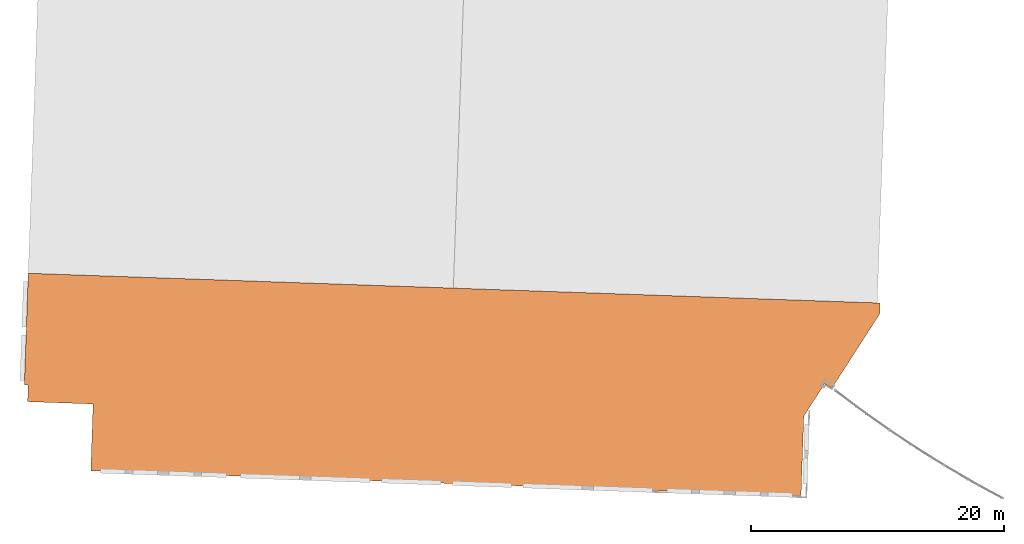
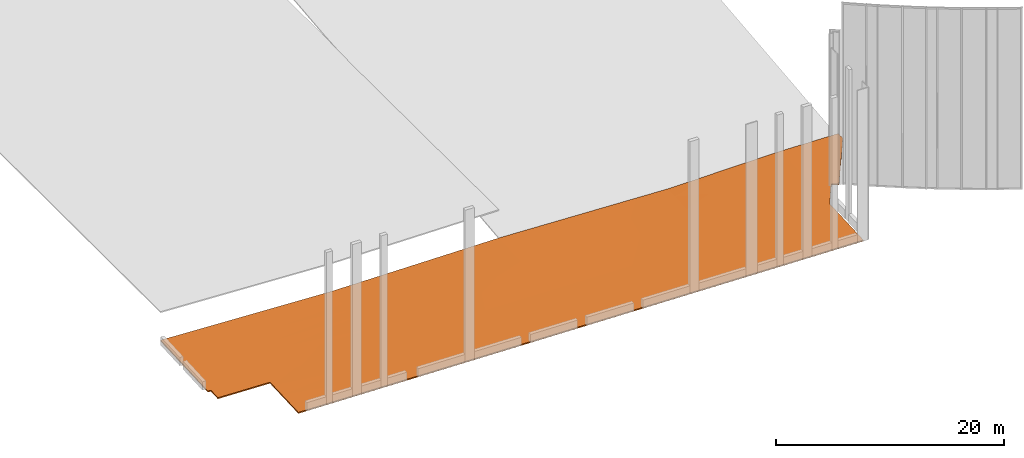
# One storey, part 17 of 17: 1 proxy.
"""IFC2X3 building model written with IfcOpenShell, lengths in feet."""

from ifc_helpers import new_model, entity, si_unit, converted_unit, derived_unit, direction, frame, origin, place, context, subcontext, project, spatial, faceted_brep, source, transform, mapped, material, type_object, type_shapes, element, save


model = new_model("IFC2X3")

# Units and contexts
model_context = context("Model", 3, precision=0.0001, world=origin(), true_north=direction((0.999390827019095, 0.0348994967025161)))
body_context = subcontext(model_context, "Body", "Model", "MODEL_VIEW")
ifc_project = project(units=[converted_unit("LENGTHUNIT", "FOOT", entity("IfcRatioMeasure", 0.3048), si_unit("LENGTHUNIT", "METRE"), dimensions=[1, 0, 0, 0, 0, 0, 0]), converted_unit("AREAUNIT", "SQUARE FOOT", entity("IfcRatioMeasure", 0.09290304), si_unit("AREAUNIT", "SQUARE_METRE"), dimensions=[2, 0, 0, 0, 0, 0, 0]), converted_unit("VOLUMEUNIT", "CUBIC FOOT", entity("IfcRatioMeasure", 0.028316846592), si_unit("VOLUMEUNIT", "CUBIC_METRE"), dimensions=[3, 0, 0, 0, 0, 0, 0]), converted_unit("PLANEANGLEUNIT", "DEGREE", entity("IfcRatioMeasure", 0.0174532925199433), si_unit("PLANEANGLEUNIT", "RADIAN"), dimensions=[0, 0, 0, 0, 0, 0, 0]), si_unit("MASSUNIT", "GRAM", prefix="KILO"), si_unit("TIMEUNIT", "SECOND"), si_unit("FREQUENCYUNIT", "HERTZ"), si_unit("THERMODYNAMICTEMPERATUREUNIT", "DEGREE_CELSIUS"), derived_unit("THERMALTRANSMITTANCEUNIT", [(si_unit("MASSUNIT", "GRAM", prefix="KILO"), 1), (si_unit("THERMODYNAMICTEMPERATUREUNIT", "KELVIN"), -1), (si_unit("TIMEUNIT", "SECOND"), -3)]), derived_unit("VOLUMETRICFLOWRATEUNIT", [(si_unit("LENGTHUNIT", "METRE"), 3), (si_unit("TIMEUNIT", "SECOND"), -1)]), si_unit("ELECTRICCURRENTUNIT", "AMPERE"), si_unit("ELECTRICVOLTAGEUNIT", "VOLT"), si_unit("POWERUNIT", "WATT"), si_unit("FORCEUNIT", "NEWTON"), si_unit("ILLUMINANCEUNIT", "LUX"), si_unit("LUMINOUSFLUXUNIT", "LUMEN"), si_unit("LUMINOUSINTENSITYUNIT", "CANDELA"), derived_unit("USERDEFINED", [(si_unit("MASSUNIT", "GRAM", prefix="KILO"), -1), (si_unit("LENGTHUNIT", "METRE"), -2), (si_unit("TIMEUNIT", "SECOND"), 3), (si_unit("LUMINOUSFLUXUNIT", "LUMEN"), 1)]), derived_unit("LINEARVELOCITYUNIT", [(si_unit("LENGTHUNIT", "METRE"), 1), (si_unit("TIMEUNIT", "SECOND"), -1)]), si_unit("PRESSUREUNIT", "PASCAL"), derived_unit("USERDEFINED", [(si_unit("LENGTHUNIT", "METRE"), -2), (si_unit("MASSUNIT", "GRAM", prefix="KILO"), 1), (si_unit("TIMEUNIT", "SECOND"), -2)])], contexts=[model_context])

# Site, building, storey
site_placement = place(None, frame((892.518771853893, 322.38689265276, 0.00393700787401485), z_axis=(0.0, 0.0, 1.0), x_axis=(0.0348994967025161, 0.999390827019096, 0.0)))
site = spatial("IfcSite", under=ifc_project, at=site_placement, Name="Default", CompositionType="ELEMENT")
building_placement = place(site_placement, origin())
building = spatial("IfcBuilding", under=site, at=building_placement, CompositionType="ELEMENT")
storey_placement = place(building_placement, frame((0.0, 0.0, 557.0)))
storey = spatial("IfcBuildingStorey", under=building, at=storey_placement, Name="Existing Garage - 1st Level", CompositionType="ELEMENT", Elevation=557.0)

# Proxy
ifc_material = material(Name="Conc Slab")
building_element_proxy_type = type_object("IfcBuildingElementProxyType", Name="URMC Exist Garage A1-G4 1st Floor", PredefinedType="NOTDEFINED", material=ifc_material)
shared_shape = source(origin(), body_context, "Body", "Brep", [
    faceted_brep([(-20.0, -55.0, -0.41666666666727), (-10.0, -55.0, -0.651666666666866), (-5.0, -55.0, -0.769166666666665), (0.0, -55.0, -0.886666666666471), (7.5000000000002, -55.0, -1.06166666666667), (15.0, -55.0, -1.23666666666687), (22.1905010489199, -55.0, -1.40444502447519), (26.09525052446, -55.0, -1.49555584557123), (30.0, -55.0, -1.58666666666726), (30.0, -55.0, -1.1700000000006), (22.8094989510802, -55.0, -1.00222164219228), (18.9047494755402, -55.0, -0.911110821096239), (15.0, -55.0, -0.8200000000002), (7.5000000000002, -55.0, -0.645000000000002), (0.0, -55.0, -0.469999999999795), (-10.0, -55.0, -0.235000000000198), (-13.9877755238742, -55.0, -0.141287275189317), (-20.0, -55.0, 0.0), (-20.6666666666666, -55.0, 0.0), (-20.6666666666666, -55.0, -0.416666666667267), (30.0, 0.333333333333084, -0.416666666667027), (22.8094991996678, 0.333333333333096, -0.416666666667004), (18.904749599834, 0.333333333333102, -0.416666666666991), (15.0, 0.333333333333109, -0.416666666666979), (8.80986514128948, 0.333333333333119, -0.416666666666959), (4.90493257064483, 0.333333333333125, -0.416666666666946), (1.0, 0.333333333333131, -0.416666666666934), (1.0, 0.333333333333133, 0.0), (4.90493259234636, 0.333333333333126, 0.0), (8.80986518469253, 0.33333333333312, 0.0), (15.0, 0.33333333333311, 0.0), (22.1905008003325, 0.333333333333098, 0.0), (26.0952504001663, 0.333333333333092, 0.0), (30.0, 0.333333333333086, 0.0), (-20.6666666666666, -17.6666666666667, 0.0), (-20.6666666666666, -17.6666666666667, -0.416666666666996), (-20.0, -17.6666666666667, -0.416666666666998), (-20.0, -34.3004878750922, -0.416666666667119), (-12.5740740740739, -17.6666666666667, -0.473434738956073), (-10.7175925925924, -17.6666666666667, -0.487626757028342), (-8.86111111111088, -17.6666666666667, -0.501818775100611), (-11.6458347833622, -36.5226943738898, -0.547431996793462), (-16.2870370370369, -17.6666666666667, -0.445050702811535), (-14.4305555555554, -17.6666666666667, -0.459242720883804), (-3.29166666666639, -17.6666666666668, -0.544394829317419), (0.0, -14.250000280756, -0.540537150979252), (0.0, -15.0715290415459, -0.547515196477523), (0.0, -27.8333333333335, -0.6559136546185), (-3.29166666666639, -13.888888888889, -0.517587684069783), (-3.29166666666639, -12.0, -0.504184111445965), (-3.29166666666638, -10.1111111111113, -0.490780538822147), (-3.29166666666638, -8.22222222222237, -0.477376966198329), (-3.29166666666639, -15.7777777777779, -0.530991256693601), (-5.14814814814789, -17.6666666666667, -0.530202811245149), (-5.59903228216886, -34.4748037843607, -0.629555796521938), (-7.00462962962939, -17.6666666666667, -0.51601079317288), (-18.1435185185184, -17.6666666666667, -0.430858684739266), (0.0, -29.476391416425, -0.669869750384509), (-3.29166666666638, -4.44444444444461, -0.450569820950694), (-3.29166666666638, -2.55555555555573, -0.437166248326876), (-3.29166666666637, -0.666666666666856, -0.423762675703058), (-2.92592592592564, -0.666666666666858, -0.423918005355), (-2.56018518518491, -0.666666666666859, -0.424073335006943), (-2.19444444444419, -0.66666666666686, -0.424228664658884), (-1.82870370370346, -0.666666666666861, -0.424383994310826), (-1.46296296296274, -0.666666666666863, -0.424539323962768), (-1.09722222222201, -0.666666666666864, -0.42469465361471), (-0.731481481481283, -0.666666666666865, -0.424849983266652), (-3.29166666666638, -6.33333333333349, -0.463973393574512), (-0.365740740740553, -0.666666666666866, -0.425005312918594), (0.0, -0.666666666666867, -0.425160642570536), (-0.365740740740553, -0.666666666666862, -0.00833864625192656), (-0.731481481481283, -0.666666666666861, -0.00818331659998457), (0.0, -14.2500000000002, -0.12387048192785), (0.0, -0.666666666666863, -0.00849397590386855), (-3.29166666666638, -8.22222222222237, -0.0607102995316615), (-3.29166666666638, -6.33333333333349, -0.0473067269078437), (-1.09722222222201, -0.66666666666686, -0.00802798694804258), (-1.46296296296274, -0.666666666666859, -0.00787265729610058), (-1.82870370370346, -0.666666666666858, -0.0077173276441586), (-2.19444444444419, -0.666666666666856, -0.00756199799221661), (-2.56018518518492, -0.666666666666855, -0.00740666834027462), (-2.92592592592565, -0.666666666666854, -0.00725133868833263), (-3.29166666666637, -0.666666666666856, -0.00709600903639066), (-3.29166666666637, -2.55555555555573, -0.0204995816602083), (-3.29166666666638, -4.44444444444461, -0.033903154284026), (-13.9378433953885, -34.3833515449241, -0.0893812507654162), (-20.0, -34.3004875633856, 0.0), (-12.5740740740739, -17.6666666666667, -0.0567680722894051), (-14.4305555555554, -17.6666666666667, -0.042576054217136), (-16.2870370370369, -17.6666666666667, -0.0283840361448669), (-10.7175925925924, -17.6666666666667, -0.0709600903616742), (-3.29166666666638, -10.1111111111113, -0.0741138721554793), (-3.29166666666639, -12.0, -0.0875174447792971), (-3.29166666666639, -13.888888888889, -0.100921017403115), (-3.29166666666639, -15.7777777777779, -0.114324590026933), (-3.2916666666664, -17.6666666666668, -0.127728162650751), (-7.93286850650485, -36.6830543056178, -0.189705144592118), (0.0, -29.4763908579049, -0.253203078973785), (0.0, -27.8333333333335, -0.239246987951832), (-5.14814814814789, -17.6666666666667, -0.113536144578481), (0.0, -15.0715287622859, -0.130848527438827), (-7.00462962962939, -17.6666666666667, -0.0993441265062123), (-8.86111111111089, -17.6666666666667, -0.0851521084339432), (-18.1435185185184, -17.6666666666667, -0.0141920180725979), (-20.0, -17.6666666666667, 0.0), (0.250000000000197, -0.666666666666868, -0.00859939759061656), (0.500000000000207, -0.666666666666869, -0.0087048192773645), (0.750000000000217, -0.66666666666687, -0.00881024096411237), (1.0, -0.66666666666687, -0.00891566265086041), (1.0, -0.66666666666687, -0.425582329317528), (0.750000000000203, -0.66666666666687, -0.42547690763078), (0.500000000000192, -0.666666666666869, -0.425371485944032), (0.250000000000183, -0.666666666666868, -0.425266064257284), (1.0, -0.166666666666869, -0.421124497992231), (1.0, -0.41666666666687, -0.42335341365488), (1.0, -0.416666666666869, -0.00668674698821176), (1.0, -0.166666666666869, -0.0044578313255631), (1.0, 0.0833333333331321, -0.00222891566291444), (1.0, 0.0833333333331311, -0.418895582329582), (11.1962408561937, -15.6577053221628, -0.627992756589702), (10.7739407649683, -31.7992304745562, -0.83558545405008), (15.0, -27.3333333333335, -0.826666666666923), (15.0, -40.5958125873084, -1.02320702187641), (6.85739956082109, -24.4344512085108, -0.698664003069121), (7.21404979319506, -39.7071127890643, -0.878575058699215), (15.0, -26.1916251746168, -0.809747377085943), (20.251104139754, -19.1054514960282, -0.747779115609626), (25.1652703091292, -15.8962002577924, -0.726745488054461), (30.0, -14.0708535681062, -0.721237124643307), (30.0, -28.4750404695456, -1.02580758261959), (24.1428761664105, -33.9154324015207, -1.0562523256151), (19.0029258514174, -39.2111456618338, -1.06943757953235), (30.0, -26.1916251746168, -0.560859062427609), (30.0, -40.5958125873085, -0.865429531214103), (24.7488958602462, -19.1054514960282, -0.367981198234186), (19.834729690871, -15.8962002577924, -0.273597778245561), (15.0, -14.0708535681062, -0.213459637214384), (15.0, -27.3333333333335, -0.410000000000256), (15.0, -28.4750404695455, -0.426919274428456), (20.8571238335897, -33.9154324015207, -0.592132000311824), (25.9970741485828, -39.2111456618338, -0.769401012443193), (7.21404852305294, -39.7071122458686, -0.461908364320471), (6.85739830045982, -24.4344495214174, -0.281997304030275), (11.1962404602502, -15.6577081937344, -0.211326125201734), (10.773940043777, -31.7992331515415, -0.418918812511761)], [[[0, 1, 2, 3, 4, 5, 6, 7, 8, 9, 10, 11, 12, 13, 14, 15, 16, 17, 18, 19]], [[20, 21, 22, 23, 24, 25, 26, 27, 28, 29, 30, 31, 32, 33]], [[18, 34, 35, 19]], [[19, 35, 36, 37, 0]], [[38, 39, 40, 41, 42, 43]], [[44, 45, 46, 47]], [[48, 49, 50, 51, 45, 44, 52]], [[53, 44, 54, 40, 55]], [[0, 37, 41]], [[37, 36, 56, 42]], [[41, 54, 1]], [[1, 54, 3, 2]], [[54, 47, 57, 3]], [[41, 37, 42]], [[0, 41, 1]], [[40, 54, 41]], [[44, 47, 54]], [[58, 59, 60, 61, 62, 63, 64, 65, 66, 67, 51, 68]], [[69, 70, 45, 67]], [[67, 45, 51]], [[71, 72, 73, 74]], [[75, 73, 72]], [[76, 75, 72, 77, 78, 79, 80, 81, 82, 83, 84, 85]], [[16, 86, 87]], [[88, 89, 90, 86, 91]], [[92, 93, 94, 95, 96, 73, 75]], [[97, 14, 98, 99]], [[86, 90, 87]], [[100, 99, 101, 73, 96]], [[100, 102, 103, 91, 97]], [[100, 97, 99]], [[86, 97, 91]], [[104, 105, 87, 90]], [[87, 17, 16]], [[86, 15, 97]], [[15, 86, 16]], [[14, 97, 15]], [[18, 17, 87, 105, 34]], [[93, 92, 75, 76, 85, 84, 83, 60, 59, 58, 68, 51, 50, 49, 48, 52, 44, 96, 95, 94]], [[62, 61, 60, 83, 82, 81, 80, 79, 78, 77, 72, 71, 74, 106, 107, 108, 109, 110, 111, 112, 113, 70, 69, 67, 66, 65, 64, 63]], [[114, 115, 110, 109, 116, 117, 118, 27, 26, 119]], [[36, 35, 34, 105, 104, 90, 89, 88, 91, 103, 102, 100, 96, 44, 53, 55, 40, 39, 38, 43, 42, 56]], [[23, 120, 24]], [[121, 122, 123, 5]], [[4, 121, 5]], [[110, 46, 45, 70, 113, 112, 111]], [[24, 120, 124]], [[110, 25, 46]], [[124, 46, 25]], [[125, 124, 121]], [[120, 23, 126, 122]], [[119, 26, 25, 110, 115, 114]], [[124, 25, 24]], [[57, 124, 125]], [[124, 57, 47, 46]], [[125, 3, 57]], [[121, 120, 122]], [[121, 124, 120]], [[121, 4, 125]], [[125, 4, 3]], [[127, 23, 22, 21]], [[128, 20, 129, 130]], [[6, 131, 7]], [[6, 132, 131]], [[132, 5, 123, 122, 126]], [[127, 128, 131]], [[130, 7, 131]], [[130, 8, 7]], [[131, 132, 127]], [[5, 132, 6]], [[127, 132, 126]], [[128, 127, 21]], [[20, 128, 21]], [[130, 131, 128]], [[23, 127, 126]], [[9, 8, 130, 129, 20, 33, 133, 134]], [[135, 33, 32, 31]], [[136, 30, 137, 138, 139]], [[10, 140, 11]], [[10, 141, 140]], [[141, 9, 134, 133]], [[135, 136, 140]], [[139, 11, 140]], [[139, 12, 11]], [[140, 141, 135]], [[9, 141, 10]], [[135, 141, 133]], [[136, 135, 31]], [[30, 136, 31]], [[139, 140, 136]], [[33, 135, 133]], [[142, 98, 14]], [[108, 107, 106, 74, 73, 101, 109]], [[143, 28, 101]], [[138, 144, 145]], [[117, 116, 109, 28, 27, 118]], [[29, 28, 143]], [[12, 145, 13]], [[145, 144, 143]], [[144, 138, 137, 30]], [[142, 14, 13]], [[144, 29, 143]], [[109, 101, 28]], [[143, 101, 99, 98]], [[145, 12, 139, 138]], [[143, 142, 145]], [[29, 144, 30]], [[98, 142, 143]], [[13, 145, 142]]]),
    faceted_brep([(30.0, -202.0, 0.0), (0.0, -202.0, 0.0), (8.58968833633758, -207.120278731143, 0.0), (7.46506598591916, -209.006925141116, 0.0), (27.1650390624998, -220.75, 0.0), (30.0, -220.75, 0.0), (30.0, -202.0, -0.416666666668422), (30.0, -220.75, -0.416666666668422), (27.1650390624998, -220.75, -0.416666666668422), (7.46506598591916, -209.006925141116, -0.416666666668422), (8.58968833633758, -207.120278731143, -0.416666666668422), (0.0, -202.0, -0.416666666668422)], [[[0, 1, 2, 3, 4, 5]], [[6, 7, 8, 9, 10, 11]], [[1, 0, 6, 11]], [[2, 1, 11, 10]], [[3, 2, 10, 9]], [[4, 3, 9, 8]], [[5, 4, 8, 7]], [[0, 5, 7, 6]]]),
    faceted_brep([(-20.6666666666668, -165.0, 0.0), (-20.0, -165.0, 0.0), (-13.6761632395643, -165.0, -0.148610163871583), (-7.35232647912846, -165.0, -0.297220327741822), (0.0, -165.0, -0.47000000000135), (9.0037052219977, -165.0, -0.680086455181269), (18.0074104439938, -165.0, -0.890172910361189), (25.4981473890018, -165.0, -1.06495677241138), (30.0, -165.0, -1.17000000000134), (30.0, -165.0, -1.58666666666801), (20.9962947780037, -165.0, -1.37658021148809), (11.9925895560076, -165.0, -1.16649375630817), (4.50185261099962, -165.0, -0.991709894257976), (0.0, -165.0, -0.886666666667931), (-6.32383676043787, -165.0, -0.738056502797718), (-12.6476735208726, -165.0, -0.589446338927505), (-20.0, -165.0, -0.416666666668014), (-20.6666666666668, -165.0, -0.416666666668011), (-20.6666666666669, -202.0, -0.41666666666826), (-20.0, -202.0, -0.416666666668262), (-12.6476733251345, -202.0, -0.416666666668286), (-6.32383666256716, -202.0, -0.416666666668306), (0.0, -202.0, -0.416666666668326), (9.00370527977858, -202.0, -0.416666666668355), (15.0, -202.0, -0.416666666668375), (20.9962947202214, -202.0, -0.416666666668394), (30.0, -202.0, -0.416666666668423), (30.0, -202.0, 0.0), (20.9962947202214, -202.0, 0.0), (15.0, -202.0, 0.0), (9.00370527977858, -202.0, 0.0), (0.0, -202.0, 0.0), (-7.35232667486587, -202.0, 0.0), (-13.676163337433, -202.0, 0.0), (-20.0, -202.0, 0.0), (-20.6666666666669, -202.0, 0.0), (-20.0, -183.5, 0.0), (0.0, -188.398195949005, -0.172779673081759), (-9.99999899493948, -183.499998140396, -0.117500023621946), (0.0, -178.601803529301, -0.297220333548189), (0.0, -183.5, -0.235000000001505), (0.0, -174.25, -0.352500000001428), (0.0, -181.656853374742, -0.675079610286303), (0.0, -183.5, -0.651666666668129), (-20.0, -178.601804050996, -0.416666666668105), (-20.0, -188.398195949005, -0.416666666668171), (-10.0000010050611, -183.499998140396, -0.53416666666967), (0.0, -191.828426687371, -0.545873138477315), (17.9981488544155, -183.915731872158, -0.434978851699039), (21.7527798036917, -174.464150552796, -0.727515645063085), (16.3929501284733, -174.455166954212, -0.634649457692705), (5.45135066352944, -176.072640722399, -0.41848031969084), (24.1185436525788, -184.958768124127, -0.47566500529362), (30.0, -181.656853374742, -0.643283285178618), (10.9233067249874, -174.475221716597, -0.539245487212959), (30.0, -191.828426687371, -0.321641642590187), (8.99746617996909, -183.946109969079, -0.331772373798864), (30.0, -183.5, -1.00166666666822), (30.0, -174.25, -1.29416666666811), (12.0018511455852, -183.915731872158, -0.783260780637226), (8.24722019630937, -174.464150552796, -0.909658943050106), (13.6070498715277, -174.455166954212, -1.0029233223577), (24.5486493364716, -176.072640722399, -1.14739902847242), (5.88145634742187, -184.958768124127, -0.696342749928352), (19.0766932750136, -174.475221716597, -1.09743837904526), (21.0025338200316, -183.946109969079, -0.885120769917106)], [[[0, 1, 2, 3, 4, 5, 6, 7, 8, 9, 10, 11, 12, 13, 14, 15, 16, 17]], [[18, 19, 20, 21, 22, 23, 24, 25, 26, 27, 28, 29, 30, 31, 32, 33, 34, 35]], [[2, 1, 36]], [[32, 31, 37]], [[38, 39, 3]], [[38, 32, 37]], [[38, 37, 40, 39]], [[36, 33, 38]], [[3, 39, 41, 4]], [[2, 36, 38]], [[38, 3, 2]], [[38, 33, 32]], [[36, 1, 0, 35, 34, 33]], [[14, 13, 42, 43]], [[20, 19, 18, 17, 16, 44, 45]], [[46, 44, 15]], [[46, 20, 45]], [[44, 46, 45]], [[43, 21, 46]], [[44, 16, 15]], [[14, 43, 46]], [[46, 15, 14]], [[46, 21, 20]], [[21, 43, 47, 23, 22]], [[17, 18, 35, 0]], [[28, 48, 29]], [[49, 6, 50]], [[51, 4, 41, 39, 40]], [[49, 52, 53]], [[6, 49, 7]], [[54, 50, 6]], [[28, 55, 52]], [[50, 54, 48]], [[31, 30, 29, 56]], [[56, 29, 48]], [[50, 48, 49]], [[53, 8, 7]], [[52, 49, 48]], [[53, 7, 49]], [[48, 28, 52]], [[5, 54, 6]], [[55, 28, 27]], [[55, 53, 52]], [[56, 54, 51]], [[56, 40, 37, 31]], [[51, 40, 56]], [[48, 54, 56]], [[51, 5, 4]], [[5, 51, 54]], [[26, 57, 58, 9, 8, 53, 55, 27]], [[23, 59, 24]], [[60, 11, 61]], [[62, 9, 58, 57]], [[60, 63, 42]], [[11, 60, 12]], [[64, 61, 11]], [[23, 47, 63]], [[61, 64, 59]], [[26, 25, 24, 65]], [[65, 24, 59]], [[61, 59, 60]], [[42, 13, 12]], [[63, 60, 59]], [[42, 12, 60]], [[59, 23, 63]], [[10, 64, 11]], [[63, 47, 43, 42]], [[65, 64, 62]], [[26, 65, 57]], [[62, 57, 65]], [[59, 64, 65]], [[62, 10, 9]], [[10, 62, 64]]]),
    faceted_brep([(-20.6666666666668, -165.0, 0.0), (-20.6666666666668, -165.0, -0.416666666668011), (-20.0, -165.0, -0.416666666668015), (0.0, -165.0, -0.886666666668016), (15.0, -165.0, -1.23666666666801), (30.0, -165.0, -1.58666666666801), (30.0, -165.0, -1.17000000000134), (15.0, -165.0, -0.820000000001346), (0.0, -165.0, -0.470000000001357), (-20.0, -165.0, 0.0), (-20.6666666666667, -110.0, -0.416666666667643), (-20.6666666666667, -110.0, 0.0), (-20.0, -110.0, 0.0), (0.0, -110.0, -0.470000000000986), (13.3825266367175, -110.0, -0.407548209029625), (21.6912633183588, -110.0, -0.368774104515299), (30.0, -110.0, -0.330000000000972), (30.0, -110.0, -0.746666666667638), (16.6174733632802, -110.0, -0.809118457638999), (8.30873668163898, -110.0, -0.847892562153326), (0.0, -110.0, -0.886666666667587), (-20.0, -110.0, -0.416666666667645), (0.0, -120.155122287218, -0.88666666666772), (0.0, -130.310244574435, -0.886666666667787), (0.0, -144.689755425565, -0.886666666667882), (0.0, -154.844877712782, -0.886666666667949), (0.0, -151.25, -0.470000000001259), (0.0, -137.5, -0.470000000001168), (0.0, -120.1551222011, -0.470000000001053), (17.2873447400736, -147.002653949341, -1.13164646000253), (30.0, -151.25, -1.37666666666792), (30.0, -137.5, -1.16666666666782), (16.3240091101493, -128.827558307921, -0.966952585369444), (30.0, -120.1551222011, -0.901763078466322), (13.2726015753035, -119.339312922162, -0.887833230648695), (8.02165536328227, -127.260649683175, -0.919720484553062), (8.64423343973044, -137.500002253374, -0.967346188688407), (21.6843579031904, -118.27528224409, -0.876826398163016), (8.41142000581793, -148.439377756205, -1.01201761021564), (30.0, -120.155122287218, -0.485096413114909), (30.0, -130.310244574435, -0.640192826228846), (30.0, -144.689755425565, -0.859807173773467), (30.0, -154.844877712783, -1.0149035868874), (12.7126552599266, -147.002653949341, -0.650151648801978), (13.6759908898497, -128.827558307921, -0.537262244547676), (16.7273984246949, -119.339312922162, -0.471470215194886), (21.9783446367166, -127.260649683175, -0.560563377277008), (21.3557665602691, -137.500002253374, -0.669320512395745), (8.31564209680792, -118.27528224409, -0.466226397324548), (21.5885799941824, -148.439377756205, -0.791723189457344)], [[[0, 1, 2, 3, 4, 5, 6, 7, 8, 9]], [[10, 11, 12, 13, 14, 15, 16, 17, 18, 19, 20, 21]], [[0, 11, 10, 1]], [[1, 10, 21, 2]], [[2, 21, 20, 22, 23, 24, 25, 3]], [[9, 8, 26, 27, 28, 13, 12]], [[9, 12, 11, 0]], [[4, 29, 30]], [[31, 32, 33]], [[34, 35, 22]], [[30, 5, 4]], [[35, 36, 23]], [[17, 33, 37]], [[32, 34, 37]], [[32, 36, 35]], [[29, 32, 31]], [[23, 36, 24]], [[4, 25, 38]], [[36, 38, 24]], [[32, 29, 36]], [[38, 36, 29]], [[29, 4, 38]], [[22, 20, 19]], [[25, 4, 3]], [[25, 24, 38]], [[19, 18, 34]], [[35, 23, 22]], [[35, 34, 32]], [[19, 34, 22]], [[37, 34, 18]], [[17, 37, 18]], [[32, 37, 33]], [[29, 31, 30]], [[6, 5, 30, 31, 33, 17, 16, 39, 40, 41, 42]], [[7, 43, 26]], [[27, 44, 28]], [[45, 46, 39]], [[26, 8, 7]], [[46, 47, 40]], [[13, 28, 48]], [[44, 45, 48]], [[44, 47, 46]], [[43, 44, 27]], [[40, 47, 41]], [[7, 42, 49]], [[47, 49, 41]], [[44, 43, 47]], [[49, 47, 43]], [[43, 7, 49]], [[39, 16, 15]], [[42, 7, 6]], [[42, 41, 49]], [[15, 14, 45]], [[46, 40, 39]], [[46, 45, 44]], [[15, 45, 39]], [[48, 45, 14]], [[13, 48, 14]], [[44, 48, 28]], [[43, 27, 26]]]),
    faceted_brep([(-20.6666666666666, -55.0, 0.0), (-20.0, -55.0, 0.0), (0.0, -55.0, -0.469999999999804), (15.0, -55.0, -0.820000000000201), (30.0, -55.0, -1.1700000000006), (30.0, -55.0, -1.58666666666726), (15.0, -55.0, -1.23666666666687), (0.0, -55.0, -0.886666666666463), (-20.0, -55.0, -0.416666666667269), (-20.6666666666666, -55.0, -0.416666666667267), (-20.6666666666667, -110.0, -0.416666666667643), (-20.0, -110.0, -0.416666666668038), (0.0, -110.0, -0.886666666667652), (13.3825266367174, -110.0, -0.824214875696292), (21.6912633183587, -110.0, -0.785440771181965), (30.0, -110.0, -0.746666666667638), (30.0, -110.0, -0.330000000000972), (16.6174733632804, -110.0, -0.392451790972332), (8.30873668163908, -110.0, -0.431225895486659), (0.0, -110.0, -0.47000000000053), (-20.0, -110.0, 0.0), (-20.6666666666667, -110.0, 0.0), (0.0, -99.8448777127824, -0.470000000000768), (0.0, -89.6897554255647, -0.47000000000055), (0.0, -75.3102445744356, -0.47000000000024), (0.0, -65.1551222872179, -0.470000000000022), (0.0, -68.7500000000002, -0.886666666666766), (0.0, -82.5000000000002, -0.886666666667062), (0.0, -99.8448777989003, -0.886666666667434), (17.2873447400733, -72.9973460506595, -0.714979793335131), (30.0, -68.7500000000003, -0.960000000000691), (30.0, -82.5000000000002, -0.750000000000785), (16.324009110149, -91.1724416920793, -0.550285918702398), (30.0, -99.8448777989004, -0.485096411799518), (13.2726015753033, -100.660687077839, -0.471166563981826), (8.02165536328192, -92.7393503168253, -0.503053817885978), (8.64423343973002, -82.4999977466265, -0.550679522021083), (21.6843579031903, -101.72471775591, -0.460159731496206), (8.41142000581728, -71.5606222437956, -0.595350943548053), (30.0, -99.8448777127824, -0.90176307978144), (30.0, -89.6897554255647, -1.05685949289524), (30.0, -75.3102445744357, -1.27647384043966), (30.0, -65.155122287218, -1.43157025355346), (12.7126552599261, -72.9973460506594, -1.06681831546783), (13.6759908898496, -91.1724416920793, -0.95392891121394), (16.7273984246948, -100.660687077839, -0.888136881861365), (21.9783446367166, -92.7393503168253, -0.977230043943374), (21.355766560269, -82.4999977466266, -1.08598717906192), (8.3156420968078, -101.72471775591, -0.882893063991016), (21.5885799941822, -71.5606222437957, -1.20838985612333)], [[[0, 1, 2, 3, 4, 5, 6, 7, 8, 9]], [[10, 11, 12, 13, 14, 15, 16, 17, 18, 19, 20, 21]], [[0, 21, 20, 1]], [[1, 20, 19, 22, 23, 24, 25, 2]], [[8, 7, 26, 27, 28, 12, 11]], [[8, 11, 10, 9]], [[9, 10, 21, 0]], [[3, 29, 30]], [[31, 32, 33]], [[34, 35, 22]], [[30, 4, 3]], [[35, 36, 23]], [[16, 33, 37]], [[32, 34, 37]], [[32, 36, 35]], [[29, 32, 31]], [[23, 36, 24]], [[3, 25, 38]], [[36, 38, 24]], [[32, 29, 36]], [[38, 36, 29]], [[29, 3, 38]], [[22, 19, 18]], [[25, 3, 2]], [[25, 24, 38]], [[18, 17, 34]], [[35, 23, 22]], [[35, 34, 32]], [[18, 34, 22]], [[37, 34, 17]], [[16, 37, 17]], [[32, 37, 33]], [[29, 31, 30]], [[15, 39, 40, 41, 42, 5, 4, 30, 31, 33, 16]], [[6, 43, 26]], [[27, 44, 28]], [[45, 46, 39]], [[26, 7, 6]], [[46, 47, 40]], [[12, 28, 48]], [[44, 45, 48]], [[44, 47, 46]], [[43, 44, 27]], [[40, 47, 41]], [[6, 42, 49]], [[47, 49, 41]], [[44, 43, 47]], [[49, 47, 43]], [[43, 6, 49]], [[39, 15, 14]], [[42, 6, 5]], [[42, 41, 49]], [[14, 13, 45]], [[46, 40, 39]], [[46, 45, 44]], [[14, 45, 39]], [[48, 45, 13]], [[12, 48, 13]], [[44, 48, 28]], [[43, 27, 26]]]),
])
type_shapes(building_element_proxy_type, [shared_shape])
proxy_placement = place(storey_placement, frame((-170.072745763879, 456.763953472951, 0.0)))
element("IfcBuildingElementProxy", 1, at=proxy_placement, inside=storey, type_object=building_element_proxy_type, material=ifc_material, Name="URMC Exist Garage A1-G4 1st Floor:URMC Exist Garage A1-G4 1st Floor", ObjectType="URMC Exist Garage A1-G4 1st Floor", context=body_context, shape_type="MappedRepresentation", body=[
    mapped(shared_shape, transform((0.0, 0.0, 0.0), scale=1.0)),
])

save(model, "model.ifc")
